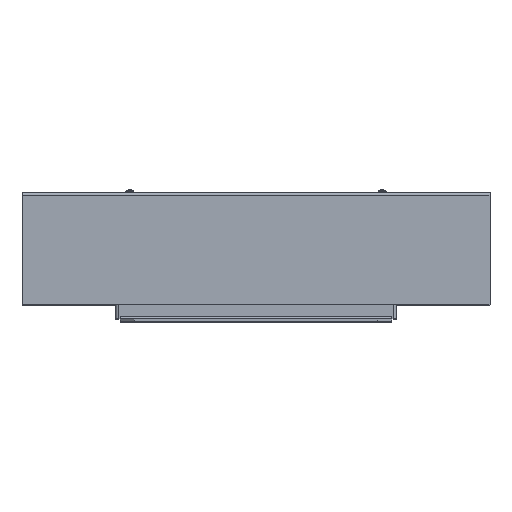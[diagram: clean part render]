
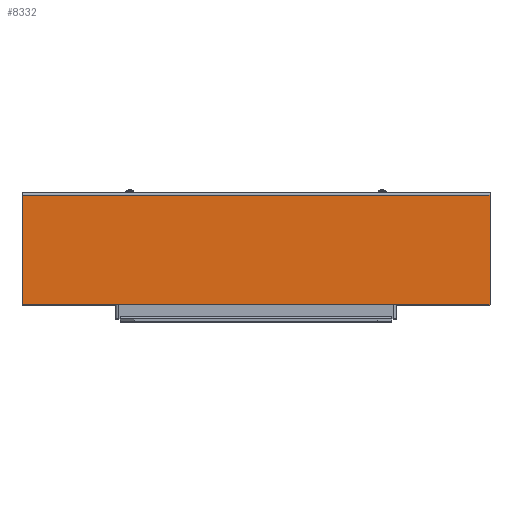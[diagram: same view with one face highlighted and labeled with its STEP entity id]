
A CAD part, top view. The second image highlights one B-rep face of the part: STEP entity #8332.
In plain terms, the highlighted planar face has unit normal (0, 0, 1) as drawn and (-1, 0, 0) by its records, which use the part's own axes.
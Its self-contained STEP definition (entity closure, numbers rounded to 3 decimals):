
#4218 = CARTESIAN_POINT ( 'NONE',  ( -117.5, -120., -500. ) ) ;
#4219 = DIRECTION ( 'NONE',  ( 0., 0., 1. ) ) ;
#4220 = VECTOR ( 'NONE', #4219, 1000. ) ;
#4221 = CARTESIAN_POINT ( 'NONE',  ( -117.5, -120., -500. ) ) ;
#4222 = LINE ( 'NONE', #4221, #4220 ) ;
#4223 = CARTESIAN_POINT ( 'NONE',  ( -117.5, -120., 0. ) ) ;
#4255 = VECTOR ( 'NONE', #4319, 1000. ) ;
#4256 = CARTESIAN_POINT ( 'NONE',  ( -117.5, 0., 0. ) ) ;
#4257 = LINE ( 'NONE', #4256, #4255 ) ;
#4258 = DIRECTION ( 'NONE',  ( 0., 1., 0. ) ) ;
#4259 = DIRECTION ( 'NONE',  ( 1., 0., 0. ) ) ;
#4260 = CARTESIAN_POINT ( 'NONE',  ( -117.5, 0., -500. ) ) ;
#4261 = AXIS2_PLACEMENT_3D ( 'NONE', #4260, #4259, #4258 ) ;
#4262 = PLANE ( 'NONE',  #4261 ) ;
#4263 = FACE_OUTER_BOUND ( 'NONE', #8333, .T. ) ;
#4309 = DIRECTION ( 'NONE',  ( 0., 1., 0. ) ) ;
#4310 = VECTOR ( 'NONE', #4309, 1000. ) ;
#4311 = CARTESIAN_POINT ( 'NONE',  ( -117.5, 0., -500. ) ) ;
#4312 = LINE ( 'NONE', #4311, #4310 ) ;
#4313 = CARTESIAN_POINT ( 'NONE',  ( -117.5, -3., -500. ) ) ;
#4314 = DIRECTION ( 'NONE',  ( 0., 0., -1. ) ) ;
#4315 = VECTOR ( 'NONE', #4314, 1000. ) ;
#4316 = CARTESIAN_POINT ( 'NONE',  ( -117.5, -3., -500. ) ) ;
#4317 = LINE ( 'NONE', #4316, #4315 ) ;
#4318 = CARTESIAN_POINT ( 'NONE',  ( -117.5, -3., 0. ) ) ;
#4319 = DIRECTION ( 'NONE',  ( 0., 1., 0. ) ) ;
#8273 = VERTEX_POINT ( 'NONE', #4223 ) ;
#8275 = EDGE_CURVE ( 'NONE', #8276, #8273, #4222, .T. ) ;
#8276 = VERTEX_POINT ( 'NONE', #4218 ) ;
#8332 = ADVANCED_FACE ( 'NONE', ( #4263 ), #4262, .F. ) ;
#8333 = EDGE_LOOP ( 'NONE', ( #8334, #8337, #8340, #8342 ) ) ;
#8334 = ORIENTED_EDGE ( 'NONE', *, *, #8335, .T. ) ;
#8335 = EDGE_CURVE ( 'NONE', #8273, #8336, #4257, .T. ) ;
#8336 = VERTEX_POINT ( 'NONE', #4318 ) ;
#8337 = ORIENTED_EDGE ( 'NONE', *, *, #8338, .T. ) ;
#8338 = EDGE_CURVE ( 'NONE', #8336, #8339, #4317, .T. ) ;
#8339 = VERTEX_POINT ( 'NONE', #4313 ) ;
#8340 = ORIENTED_EDGE ( 'NONE', *, *, #8341, .F. ) ;
#8341 = EDGE_CURVE ( 'NONE', #8276, #8339, #4312, .T. ) ;
#8342 = ORIENTED_EDGE ( 'NONE', *, *, #8275, .T. ) ;
